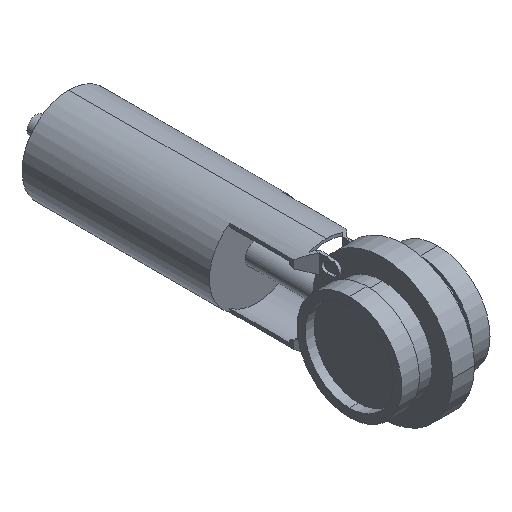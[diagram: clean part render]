
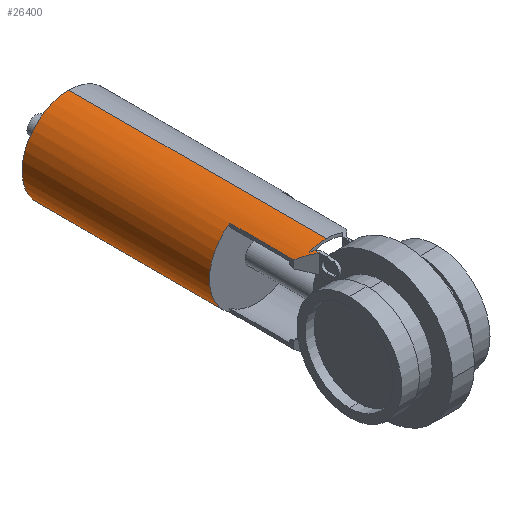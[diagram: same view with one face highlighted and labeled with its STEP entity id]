
A CAD part, isometric view. The second image highlights one B-rep face of the part: STEP entity #26400.
In plain terms, the highlighted cylindrical face has radius 42.5 mm (diameter 85 mm), a partial arc.
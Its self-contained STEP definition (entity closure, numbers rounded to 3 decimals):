
#17680=CARTESIAN_POINT('',(-122.126,169.806,
-35.075));
#17690=VERTEX_POINT('',#17680);
#17720=CARTESIAN_POINT('',(-98.126,169.806,
0.));
#17730=DIRECTION('',(0.,-1.,0.));
#17740=DIRECTION('',(0.,0.,1.));
#17750=AXIS2_PLACEMENT_3D('',#17720,#17730,#17740);
#17760=CIRCLE('',#17750,42.5);
#17770=CARTESIAN_POINT('',(-122.126,169.806,
35.075));
#17780=VERTEX_POINT('',#17770);
#17790=EDGE_CURVE('',#17780,#17690,#17760,.T.);
#19920=CARTESIAN_POINT('',(-98.126,106.406,
0.));
#19930=DIRECTION('',(0.,-1.,0.));
#19940=DIRECTION('',(0.,0.,-1.));
#19950=AXIS2_PLACEMENT_3D('',#19920,#19930,#19940);
#19960=CIRCLE('',#19950,42.5);
#19970=CARTESIAN_POINT('',(-98.126,106.406,-42.5));
#19980=VERTEX_POINT('',#19970);
#20010=CARTESIAN_POINT('',(-113.184,106.406,
-39.743));
#20020=VERTEX_POINT('',#20010);
#20030=EDGE_CURVE('',#20020,#19980,#19960,.T.);
#20290=CARTESIAN_POINT('',(-98.126,91.348,
0.));
#20300=DIRECTION('',(0.707,0.707,0.));
#20310=DIRECTION('',(0.707,-0.707,0.));
#20320=AXIS2_PLACEMENT_3D('',#20290,#20300,#20310);
#20330=ELLIPSE('',#20320,60.104,42.5);
#20340=CARTESIAN_POINT('',(-108.126,101.348,
-41.307));
#20350=VERTEX_POINT('',#20340);
#20360=EDGE_CURVE('',#20350,#20020,#20330,.T.);
#20540=CARTESIAN_POINT('',(-122.126,366.667,
-35.075));
#20550=DIRECTION('',(0.,-1.,0.));
#20560=VECTOR('',#20550,1.);
#20570=LINE('',#20540,#20560);
#20580=CARTESIAN_POINT('',(-122.126,111.812,
-35.075));
#20590=VERTEX_POINT('',#20580);
#20600=EDGE_CURVE('',#17690,#20590,#20570,.T.);
#21020=CARTESIAN_POINT('',(-110.626,93.857,
-40.62));
#21030=VERTEX_POINT('',#21020);
#21060=CARTESIAN_POINT('',(-110.626,366.667,
-40.62));
#21070=DIRECTION('',(0.,-1.,0.));
#21080=VECTOR('',#21070,1.);
#21090=LINE('',#21060,#21080);
#21100=CARTESIAN_POINT('',(-110.626,100.312,
-40.62));
#21110=VERTEX_POINT('',#21100);
#21120=EDGE_CURVE('',#21110,#21030,#21090,.T.);
#22700=CARTESIAN_POINT('',(-110.626,103.848,
40.62));
#22710=VERTEX_POINT('',#22700);
#22740=CARTESIAN_POINT('',(-98.126,91.348,
0.));
#22750=DIRECTION('',(0.707,0.707,0.));
#22760=DIRECTION('',(-0.707,0.707,0.));
#22770=AXIS2_PLACEMENT_3D('',#22740,#22750,#22760);
#22780=ELLIPSE('',#22770,60.104,42.5);
#22790=CARTESIAN_POINT('',(-113.184,106.406,
39.743));
#22800=VERTEX_POINT('',#22790);
#22810=EDGE_CURVE('',#22800,#22710,#22780,.T.);
#24140=CARTESIAN_POINT('',(-122.126,111.812,
35.075));
#24150=VERTEX_POINT('',#24140);
#24470=CARTESIAN_POINT('',(-122.126,366.667,
35.075));
#24480=DIRECTION('',(0.,-1.,0.));
#24490=VECTOR('',#24480,1.);
#24500=LINE('',#24470,#24490);
#24510=EDGE_CURVE('',#17780,#24150,#24500,.T.);
#25390=CARTESIAN_POINT('',(-98.126,106.406,
0.));
#25400=DIRECTION('',(0.,-1.,0.));
#25410=DIRECTION('',(0.,0.,1.));
#25420=AXIS2_PLACEMENT_3D('',#25390,#25400,#25410);
#25430=CIRCLE('',#25420,42.5);
#25440=CARTESIAN_POINT('',(-98.126,106.406,42.5));
#25450=VERTEX_POINT('',#25440);
#25460=EDGE_CURVE('',#25450,#22800,#25430,.T.);
#25560=CARTESIAN_POINT('',(-98.126,169.806,
0.));
#25570=DIRECTION('',(0.,-1.,0.));
#25580=DIRECTION('',(0.,0.,-1.));
#25590=AXIS2_PLACEMENT_3D('',#25560,#25570,#25580);
#25600=CYLINDRICAL_SURFACE('',#25590,42.5);
#25610=ORIENTED_EDGE('',*,*,#22810,.F.);
#25620=CARTESIAN_POINT('',(-110.626,366.667,
40.62));
#25630=DIRECTION('',(0.,-1.,0.));
#25640=VECTOR('',#25630,1.);
#25650=LINE('',#25620,#25640);
#25660=CARTESIAN_POINT('',(-110.626,100.312,
40.62));
#25670=VERTEX_POINT('',#25660);
#25680=EDGE_CURVE('',#22710,#25670,#25650,.T.);
#25690=ORIENTED_EDGE('',*,*,#25680,.F.);
#25700=CARTESIAN_POINT('',(-98.126,87.812,
0.));
#25710=DIRECTION('',(-0.707,-0.707,0.));
#25720=DIRECTION('',(0.707,-0.707,0.));
#25730=AXIS2_PLACEMENT_3D('',#25700,#25710,#25720);
#25740=ELLIPSE('',#25730,60.104,42.5);
#25750=EDGE_CURVE('',#25670,#24150,#25740,.T.);
#25760=ORIENTED_EDGE('',*,*,#25750,.F.);
#25770=ORIENTED_EDGE('',*,*,#24510,.T.);
#25780=ORIENTED_EDGE('',*,*,#17790,.F.);
#25790=ORIENTED_EDGE('',*,*,#20600,.F.);
#25800=CARTESIAN_POINT('',(-98.126,87.812,
0.));
#25810=DIRECTION('',(0.707,0.707,0.));
#25820=DIRECTION('',(0.707,-0.707,0.));
#25830=AXIS2_PLACEMENT_3D('',#25800,#25810,#25820);
#25840=ELLIPSE('',#25830,60.104,42.5);
#25850=EDGE_CURVE('',#21110,#20590,#25840,.T.);
#25860=ORIENTED_EDGE('',*,*,#25850,.T.);
#25870=ORIENTED_EDGE('',*,*,#21120,.F.);
#25880=CARTESIAN_POINT('',(-98.126,-262.662,
0.));
#25890=DIRECTION('',(0.,-0.113,-0.994));
#25900=DIRECTION('',(0.,0.994,-0.113));
#25910=AXIS2_PLACEMENT_3D('',#25880,#25890,#25900);
#25920=ELLIPSE('',#25910,375.431,42.5);
#25930=CARTESIAN_POINT('',(-108.774,98.46,
-41.145));
#25940=VERTEX_POINT('',#25930);
#25950=EDGE_CURVE('',#21030,#25940,#25920,.T.);
#25960=ORIENTED_EDGE('',*,*,#25950,.F.);
#25970=CARTESIAN_POINT('',(-98.126,87.812,
0.));
#25980=DIRECTION('',(-0.707,-0.707,0.));
#25990=DIRECTION('',(-0.707,0.707,0.));
#26000=AXIS2_PLACEMENT_3D('',#25970,#25980,#25990);
#26010=ELLIPSE('',#26000,60.104,42.5);
#26020=CARTESIAN_POINT('',(-108.126,97.812,
-41.307));
#26030=VERTEX_POINT('',#26020);
#26040=EDGE_CURVE('',#25940,#26030,#26010,.T.);
#26050=ORIENTED_EDGE('',*,*,#26040,.F.);
#26060=CARTESIAN_POINT('',(-108.126,366.667,
-41.307));
#26070=DIRECTION('',(0.,-1.,0.));
#26080=VECTOR('',#26070,1.);
#26090=LINE('',#26060,#26080);
#26100=EDGE_CURVE('',#20350,#26030,#26090,.T.);
#26110=ORIENTED_EDGE('',*,*,#26100,.T.);
#26120=ORIENTED_EDGE('',*,*,#20360,.F.);
#26130=ORIENTED_EDGE('',*,*,#20030,.F.);
#26140=CARTESIAN_POINT('',(-98.126,169.806,-42.5));
#26150=DIRECTION('',(0.,-1.,0.));
#26160=VECTOR('',#26150,1.);
#26170=LINE('',#26140,#26160);
#26180=CARTESIAN_POINT('',(-98.126,339.806,-42.5));
#26190=VERTEX_POINT('',#26180);
#26200=EDGE_CURVE('',#26190,#19980,#26170,.T.);
#26210=ORIENTED_EDGE('',*,*,#26200,.T.);
#26220=CARTESIAN_POINT('',(-98.126,339.806,
0.));
#26230=DIRECTION('',(0.,-1.,0.));
#26240=DIRECTION('',(0.,0.,-1.));
#26250=AXIS2_PLACEMENT_3D('',#26220,#26230,#26240);
#26260=CIRCLE('',#26250,42.5);
#26270=CARTESIAN_POINT('',(-98.126,339.806,42.5));
#26280=VERTEX_POINT('',#26270);
#26290=EDGE_CURVE('',#26280,#26190,#26260,.T.);
#26300=ORIENTED_EDGE('',*,*,#26290,.T.);
#26310=CARTESIAN_POINT('',(-98.126,169.806,42.5));
#26320=DIRECTION('',(0.,-1.,0.));
#26330=VECTOR('',#26320,1.);
#26340=LINE('',#26310,#26330);
#26350=EDGE_CURVE('',#26280,#25450,#26340,.T.);
#26360=ORIENTED_EDGE('',*,*,#26350,.F.);
#26370=ORIENTED_EDGE('',*,*,#25460,.F.);
#26380=EDGE_LOOP('',(#26370,#26360,#26300,#26210,#26130,#26120,#26110,
#26050,#25960,#25870,#25860,#25790,#25780,#25770,#25760,#25690,#25610));
#26390=FACE_OUTER_BOUND('',#26380,.T.);
#26400=ADVANCED_FACE('',(#26390),#25600,.T.);
